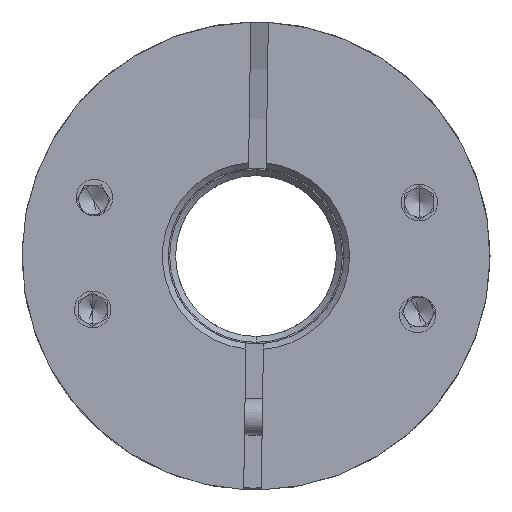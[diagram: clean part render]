
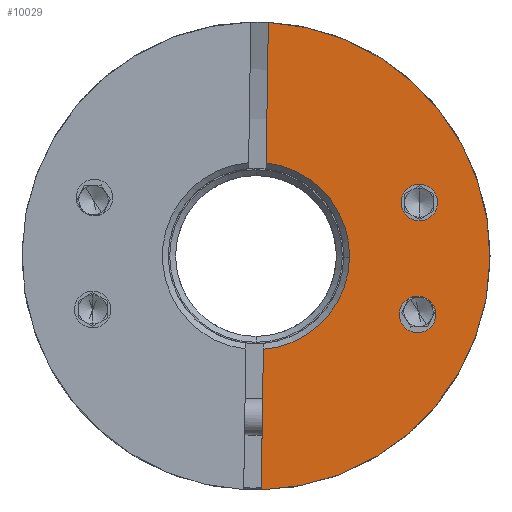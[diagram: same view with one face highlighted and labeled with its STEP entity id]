
A CAD part, front view. The second image highlights one B-rep face of the part: STEP entity #10029.
In plain terms, the highlighted planar face has unit normal (0, -1, 0).
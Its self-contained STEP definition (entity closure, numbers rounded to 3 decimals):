
#146 = CIRCLE ( 'NONE', #11739, 1.25 ) ;
#426 = AXIS2_PLACEMENT_3D ( 'NONE', #6298, #14015, #15970 ) ;
#689 = DIRECTION ( 'NONE',  ( 0., 1., 0. ) ) ;
#864 = CIRCLE ( 'NONE', #16070, 16. ) ;
#1193 = DIRECTION ( 'NONE',  ( 1., 0., -0.015 ) ) ;
#1252 = DIRECTION ( 'NONE',  ( 0., -1., 0. ) ) ;
#1329 = EDGE_LOOP ( 'NONE', ( #8836, #11628, #20554, #10051, #15663, #13017 ) ) ;
#1371 = EDGE_CURVE ( 'NONE', #6655, #7653, #20684, .T. ) ;
#1485 = AXIS2_PLACEMENT_3D ( 'NONE', #17779, #1252, #16154 ) ;
#1679 = CARTESIAN_POINT ( 'NONE',  ( -58.821, -19.411, -15.996 ) ) ;
#2621 = DIRECTION ( 'NONE',  ( 0., -1., 0. ) ) ;
#2741 = DIRECTION ( 'NONE',  ( 1., 0., -0.015 ) ) ;
#2793 = CIRCLE ( 'NONE', #11589, 1.25 ) ;
#3362 = CARTESIAN_POINT ( 'NONE',  ( -58.487, -19.411, 5.99 ) ) ;
#3722 = VERTEX_POINT ( 'NONE', #15632 ) ;
#3937 = FACE_BOUND ( 'NONE', #10175, .T. ) ;
#4049 = DIRECTION ( 'NONE',  ( 1., 0., -0.015 ) ) ;
#4105 = ORIENTED_EDGE ( 'NONE', *, *, #23618, .T. ) ;
#4392 = ORIENTED_EDGE ( 'NONE', *, *, #16303, .T. ) ;
#5601 = EDGE_CURVE ( 'NONE', #15655, #16953, #864, .T. ) ;
#5938 = CARTESIAN_POINT ( 'NONE',  ( -49.378, -19.411, -3.975 ) ) ;
#6057 = DIRECTION ( 'NONE',  ( 0., 1., 0. ) ) ;
#6116 = AXIS2_PLACEMENT_3D ( 'NONE', #13243, #17065, #7392 ) ;
#6176 = DIRECTION ( 'NONE',  ( 0., 1., 0. ) ) ;
#6266 = FACE_BOUND ( 'NONE', #9474, .T. ) ;
#6277 = CIRCLE ( 'NONE', #6116, 6.4 ) ;
#6298 = CARTESIAN_POINT ( 'NONE',  ( -48.012, -19.411, 3.656 ) ) ;
#6520 = CIRCLE ( 'NONE', #7667, 1.25 ) ;
#6625 = EDGE_CURVE ( 'NONE', #14129, #6655, #16385, .T. ) ;
#6655 = VERTEX_POINT ( 'NONE', #14635 ) ;
#7386 = CARTESIAN_POINT ( 'NONE',  ( -46.878, -19.411, -4.013 ) ) ;
#7392 = DIRECTION ( 'NONE',  ( 1., 0., -0.015 ) ) ;
#7653 = VERTEX_POINT ( 'NONE', #10603 ) ;
#7667 = AXIS2_PLACEMENT_3D ( 'NONE', #17280, #6057, #22975 ) ;
#8311 = VECTOR ( 'NONE', #20499, 1000. ) ;
#8474 = EDGE_CURVE ( 'NONE', #17528, #21417, #13402, .T. ) ;
#8836 = ORIENTED_EDGE ( 'NONE', *, *, #6625, .T. ) ;
#9029 = DIRECTION ( 'NONE',  ( -0.015, 0., -1. ) ) ;
#9207 = EDGE_CURVE ( 'NONE', #3722, #15655, #13357, .T. ) ;
#9474 = EDGE_LOOP ( 'NONE', ( #18051, #4392 ) ) ;
#9892 = CARTESIAN_POINT ( 'NONE',  ( -43.18, -19.411, -0.243 ) ) ;
#10029 = ADVANCED_FACE ( 'NONE', ( #18894, #6266, #3937 ), #19845, .T. ) ;
#10051 = ORIENTED_EDGE ( 'NONE', *, *, #9207, .T. ) ;
#10093 = CARTESIAN_POINT ( 'NONE',  ( -58.336, -19.411, 15.978 ) ) ;
#10175 = EDGE_LOOP ( 'NONE', ( #4105, #16723 ) ) ;
#10244 = DIRECTION ( 'NONE',  ( 1., 0., -0.015 ) ) ;
#10603 = CARTESIAN_POINT ( 'NONE',  ( -52.779, -19.411, -0.097 ) ) ;
#10955 = VERTEX_POINT ( 'NONE', #5938 ) ;
#11520 = DIRECTION ( 'NONE',  ( 0., 1., 0. ) ) ;
#11589 = AXIS2_PLACEMENT_3D ( 'NONE', #22705, #11520, #4049 ) ;
#11628 = ORIENTED_EDGE ( 'NONE', *, *, #1371, .T. ) ;
#11647 = CARTESIAN_POINT ( 'NONE',  ( -59.178, -19.411, 0. ) ) ;
#11739 = AXIS2_PLACEMENT_3D ( 'NONE', #17543, #689, #10244 ) ;
#11992 = VECTOR ( 'NONE', #9029, 1000. ) ;
#13017 = ORIENTED_EDGE ( 'NONE', *, *, #22357, .T. ) ;
#13064 = AXIS2_PLACEMENT_3D ( 'NONE', #13822, #6176, #2741 ) ;
#13243 = CARTESIAN_POINT ( 'NONE',  ( -59.178, -19.411, 0. ) ) ;
#13357 = LINE ( 'NONE', #3362, #8311 ) ;
#13376 = VERTEX_POINT ( 'NONE', #7386 ) ;
#13402 = CIRCLE ( 'NONE', #426, 1.25 ) ;
#13822 = CARTESIAN_POINT ( 'NONE',  ( -59.178, -19.411, 0. ) ) ;
#14015 = DIRECTION ( 'NONE',  ( 0., 1., 0. ) ) ;
#14129 = VERTEX_POINT ( 'NONE', #10093 ) ;
#14635 = CARTESIAN_POINT ( 'NONE',  ( -58.482, -19.411, 6.362 ) ) ;
#15414 = CIRCLE ( 'NONE', #1485, 16. ) ;
#15632 = CARTESIAN_POINT ( 'NONE',  ( -58.675, -19.411, -6.38 ) ) ;
#15655 = VERTEX_POINT ( 'NONE', #1679 ) ;
#15663 = ORIENTED_EDGE ( 'NONE', *, *, #5601, .T. ) ;
#15970 = DIRECTION ( 'NONE',  ( 1., 0., -0.015 ) ) ;
#16070 = AXIS2_PLACEMENT_3D ( 'NONE', #11647, #2621, #17519 ) ;
#16154 = DIRECTION ( 'NONE',  ( 1., 0., -0.015 ) ) ;
#16303 = EDGE_CURVE ( 'NONE', #21417, #17528, #2793, .T. ) ;
#16385 = LINE ( 'NONE', #16755, #11992 ) ;
#16723 = ORIENTED_EDGE ( 'NONE', *, *, #23042, .T. ) ;
#16755 = CARTESIAN_POINT ( 'NONE',  ( -58.487, -19.411, 5.99 ) ) ;
#16953 = VERTEX_POINT ( 'NONE', #9892 ) ;
#17065 = DIRECTION ( 'NONE',  ( 0., 1., 0. ) ) ;
#17244 = CARTESIAN_POINT ( 'NONE',  ( -49.261, -19.411, 3.675 ) ) ;
#17280 = CARTESIAN_POINT ( 'NONE',  ( -48.128, -19.411, -3.994 ) ) ;
#17283 = CARTESIAN_POINT ( 'NONE',  ( -46.762, -19.411, 3.637 ) ) ;
#17519 = DIRECTION ( 'NONE',  ( 1., 0., -0.015 ) ) ;
#17528 = VERTEX_POINT ( 'NONE', #17244 ) ;
#17543 = CARTESIAN_POINT ( 'NONE',  ( -48.128, -19.411, -3.994 ) ) ;
#17684 = EDGE_CURVE ( 'NONE', #7653, #3722, #6277, .T. ) ;
#17779 = CARTESIAN_POINT ( 'NONE',  ( -59.178, -19.411, 0. ) ) ;
#18051 = ORIENTED_EDGE ( 'NONE', *, *, #8474, .T. ) ;
#18894 = FACE_OUTER_BOUND ( 'NONE', #1329, .T. ) ;
#18966 = AXIS2_PLACEMENT_3D ( 'NONE', #23329, #23573, #1193 ) ;
#19845 = PLANE ( 'NONE',  #18966 ) ;
#20499 = DIRECTION ( 'NONE',  ( -0.015, 0., -1. ) ) ;
#20554 = ORIENTED_EDGE ( 'NONE', *, *, #17684, .T. ) ;
#20684 = CIRCLE ( 'NONE', #13064, 6.4 ) ;
#21417 = VERTEX_POINT ( 'NONE', #17283 ) ;
#22357 = EDGE_CURVE ( 'NONE', #16953, #14129, #15414, .T. ) ;
#22705 = CARTESIAN_POINT ( 'NONE',  ( -48.012, -19.411, 3.656 ) ) ;
#22975 = DIRECTION ( 'NONE',  ( 1., 0., -0.015 ) ) ;
#23042 = EDGE_CURVE ( 'NONE', #13376, #10955, #146, .T. ) ;
#23329 = CARTESIAN_POINT ( 'NONE',  ( -59.178, -19.411, 0. ) ) ;
#23573 = DIRECTION ( 'NONE',  ( 0., -1., 0. ) ) ;
#23618 = EDGE_CURVE ( 'NONE', #10955, #13376, #6520, .T. ) ;
